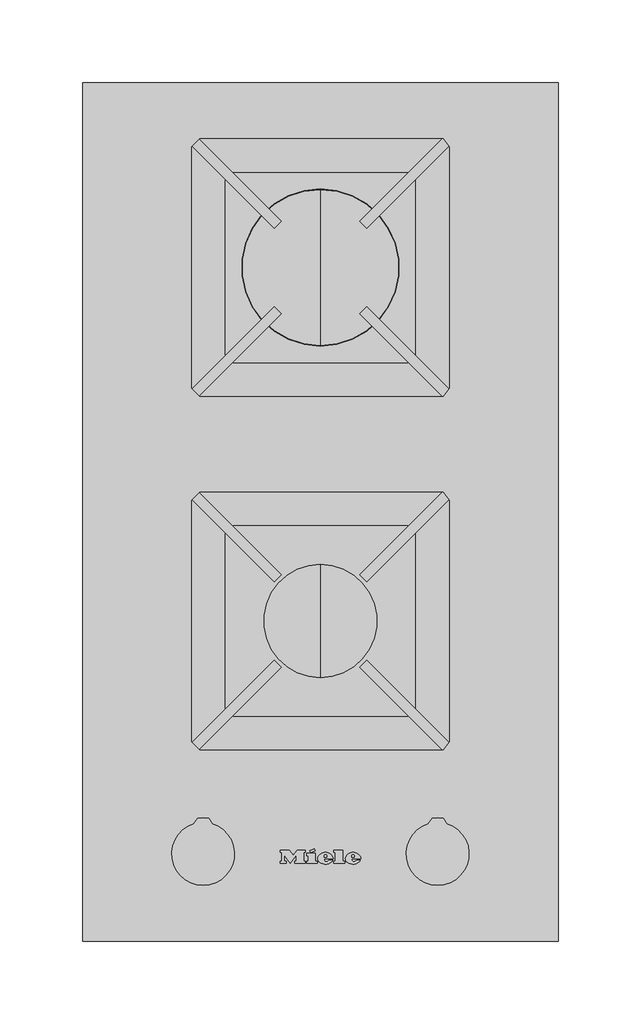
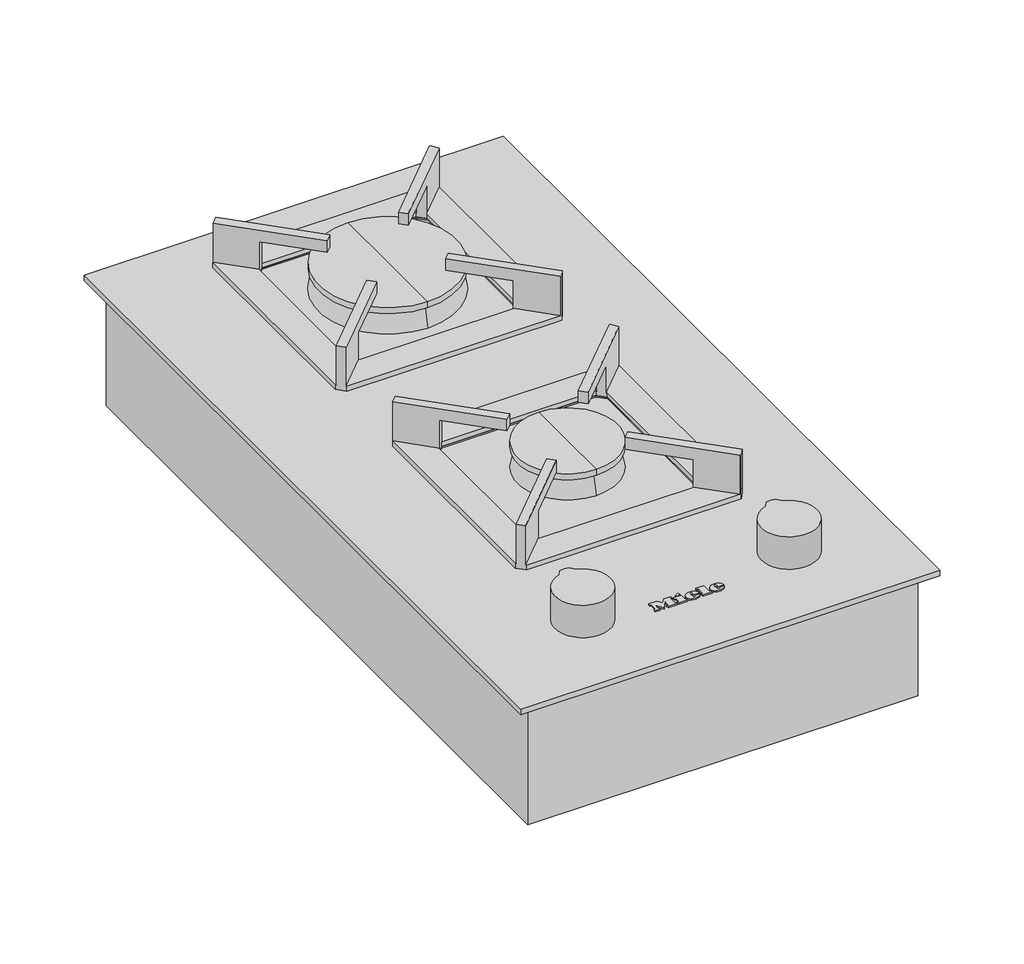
# Not in any storey: 1 proxy.
"""IFC4 building model written with IfcOpenShell, lengths in millimetres."""

from ifc_helpers import new_model, si_unit, origin, place, context, project, spatial, transform, mapped, element, save
from components import specialty_equipment_82d7ef67

model = new_model("IFC4")

# Units and contexts
model_context = context("Model", 3, world=origin())
ifc_project = project(units=[si_unit("LENGTHUNIT", "METRE", prefix="MILLI")], contexts=[model_context])

# Site, building
site = spatial("IfcSite", under=ifc_project)
building = spatial("IfcBuilding", under=site)

# Proxy
placement = place(None, origin())
specialty_equipment_shape = specialty_equipment_82d7ef67(model_context)
element("IfcBuildingElementProxy", 1, Name="12106160_HK_CS7152FL : 27715250_HK_12106160_CS7152FL", ObjectType="12106160_HK_CS7152FL : 27715250_HK_12106160_CS7152FL", at=placement, inside=building, context=model_context, shape_type="MappedRepresentation", body=[
    mapped(specialty_equipment_shape, transform((0.0, 0.0, 0.0), x_axis=(1.0, 0.0, 0.0), y_axis=(0.0, 1.0, 0.0), z_axis=(0.0, 0.0, 1.0))),
])

save(model, "model.ifc")
